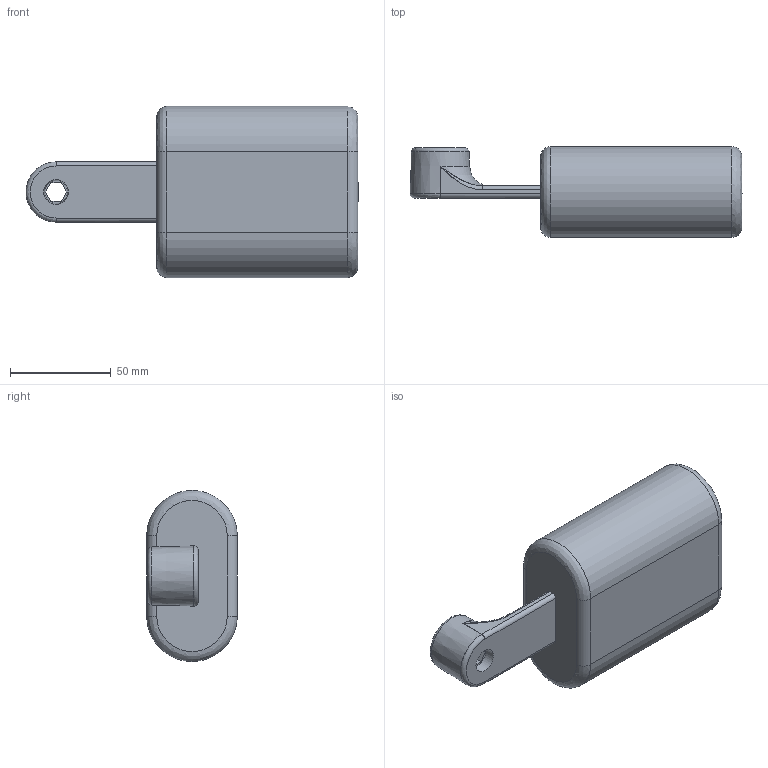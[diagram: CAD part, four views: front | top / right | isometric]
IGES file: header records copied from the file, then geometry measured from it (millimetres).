
Start section: SolidWorks IGES file using analytic representation for surfaces
Global section: file name: \\avksan2\techshare\PBM outline export from Enovia\O_41_23_DN080_000_REV01.igs; native system: SolidWorks 2019; preprocessor: SolidWorks 2019; author: pbm; date: 220106.081516; units: millimetre
Bounding box: 164.89 x 45 x 85 mm (x, y, z)
Surface area: 34368.5 mm2 (no closed solid volume)
Topology: 0 solids, 0 shells, 45 faces, 233 edges, 230 vertices
Faces by surface type: bspline 23, revolution 22
